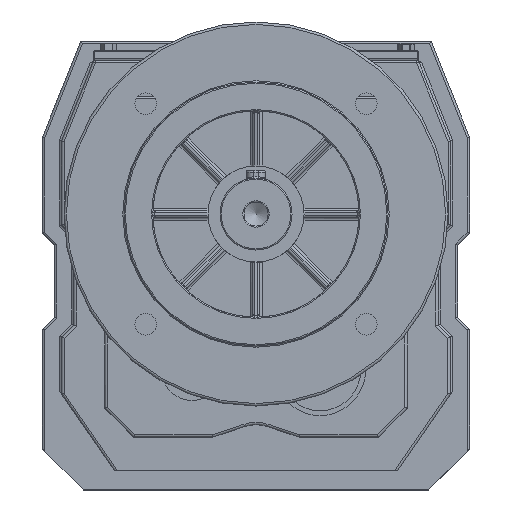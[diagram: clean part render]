
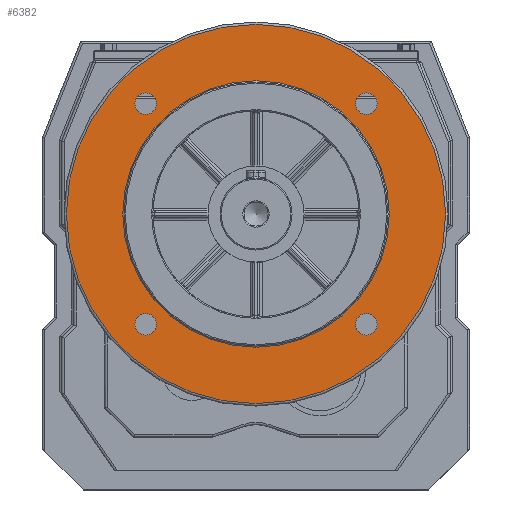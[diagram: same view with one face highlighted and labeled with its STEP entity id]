
A CAD part, front view. The second image highlights one B-rep face of the part: STEP entity #6382.
In plain terms, the highlighted planar face has unit normal (0, -1, 0).
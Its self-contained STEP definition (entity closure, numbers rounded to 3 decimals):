
#105=CARTESIAN_POINT('',(-41.462,-112.5,160.962));
#106=VERTEX_POINT('',#105);
#107=CARTESIAN_POINT('',(-45.962,-112.5,160.962));
#108=DIRECTION('',(0.0,1.0,0.0));
#109=DIRECTION('',(1.0,0.0,0.0));
#110=AXIS2_PLACEMENT_3D('',#107,#108,#109);
#111=CIRCLE('',#110,4.5);
#112=EDGE_CURVE('',#106,#106,#111,.T.);
#154=CARTESIAN_POINT('',(-41.462,-112.5,69.038));
#155=VERTEX_POINT('',#154);
#156=CARTESIAN_POINT('',(-45.962,-112.5,69.038));
#157=DIRECTION('',(0.0,1.0,0.0));
#158=DIRECTION('',(1.0,0.0,0.0));
#159=AXIS2_PLACEMENT_3D('',#156,#157,#158);
#160=CIRCLE('',#159,4.5);
#161=EDGE_CURVE('',#155,#155,#160,.T.);
#203=CARTESIAN_POINT('',(50.462,-112.5,69.038));
#204=VERTEX_POINT('',#203);
#205=CARTESIAN_POINT('',(45.962,-112.5,69.038));
#206=DIRECTION('',(0.0,1.0,0.0));
#207=DIRECTION('',(1.0,0.0,0.0));
#208=AXIS2_PLACEMENT_3D('',#205,#206,#207);
#209=CIRCLE('',#208,4.5);
#210=EDGE_CURVE('',#204,#204,#209,.T.);
#252=CARTESIAN_POINT('',(50.462,-112.5,160.962));
#253=VERTEX_POINT('',#252);
#254=CARTESIAN_POINT('',(45.962,-112.5,160.962));
#255=DIRECTION('',(0.0,1.0,0.0));
#256=DIRECTION('',(1.0,0.0,0.0));
#257=AXIS2_PLACEMENT_3D('',#254,#255,#256);
#258=CIRCLE('',#257,4.5);
#259=EDGE_CURVE('',#253,#253,#258,.T.);
#6336=CARTESIAN_POINT('',(0.0,-112.5,194.0));
#6337=VERTEX_POINT('',#6336);
#6338=CARTESIAN_POINT('',(0.0,-112.5,115.));
#6339=DIRECTION('',(0.0,1.0,0.0));
#6340=DIRECTION('',(0.0,0.0,-1.0));
#6341=AXIS2_PLACEMENT_3D('',#6338,#6339,#6340);
#6342=CIRCLE('',#6341,79.);
#6343=EDGE_CURVE('',#6337,#6337,#6342,.T.);
#6351=CARTESIAN_POINT('',(0.0,-112.5,182.5));
#6352=DIRECTION('',(0.0,-1.0,0.0));
#6353=DIRECTION('',(0.0,0.0,-1.0));
#6354=AXIS2_PLACEMENT_3D('',#6351,#6352,#6353);
#6355=PLANE('',#6354);
#6356=ORIENTED_EDGE('',*,*,#6343,.F.);
#6357=EDGE_LOOP('',(#6356));
#6358=FACE_OUTER_BOUND('',#6357,.T.);
#6359=ORIENTED_EDGE('',*,*,#112,.T.);
#6360=EDGE_LOOP('',(#6359));
#6361=FACE_BOUND('',#6360,.T.);
#6362=ORIENTED_EDGE('',*,*,#161,.T.);
#6363=EDGE_LOOP('',(#6362));
#6364=FACE_BOUND('',#6363,.T.);
#6365=ORIENTED_EDGE('',*,*,#210,.T.);
#6366=EDGE_LOOP('',(#6365));
#6367=FACE_BOUND('',#6366,.T.);
#6368=ORIENTED_EDGE('',*,*,#259,.T.);
#6369=EDGE_LOOP('',(#6368));
#6370=FACE_BOUND('',#6369,.T.);
#6371=CARTESIAN_POINT('',(0.,-112.5,170.5));
#6372=VERTEX_POINT('',#6371);
#6373=CARTESIAN_POINT('',(0.0,-112.5,115.));
#6374=DIRECTION('',(0.0,-1.0,0.0));
#6375=DIRECTION('',(0.0,0.0,-1.0));
#6376=AXIS2_PLACEMENT_3D('',#6373,#6374,#6375);
#6377=CIRCLE('',#6376,55.5);
#6378=EDGE_CURVE('',#6372,#6372,#6377,.T.);
#6379=ORIENTED_EDGE('',*,*,#6378,.F.);
#6380=EDGE_LOOP('',(#6379));
#6381=FACE_BOUND('',#6380,.T.);
#6382=ADVANCED_FACE('',(#6358,#6361,#6364,#6367,#6370,#6381),#6355,.T.);
